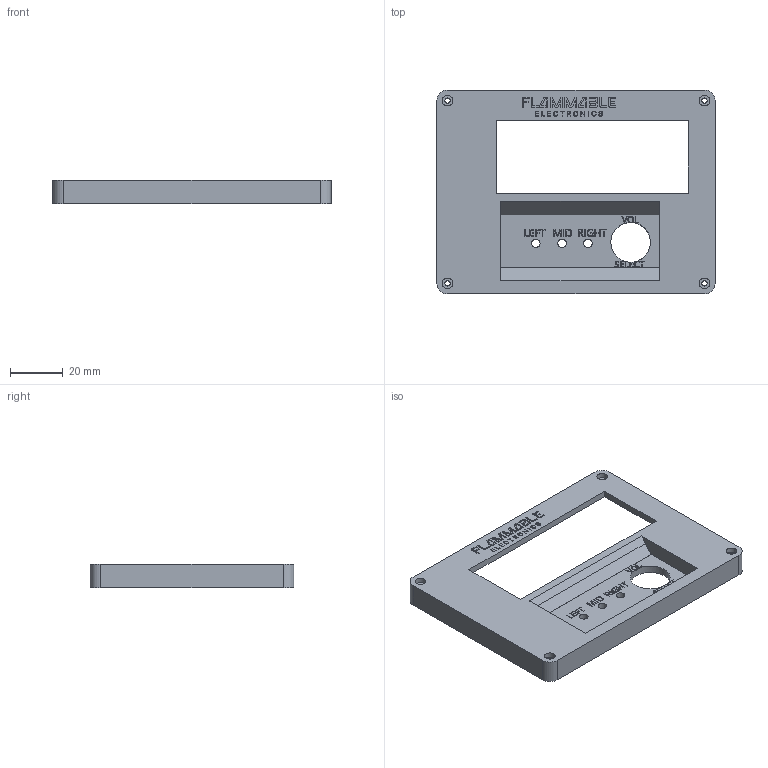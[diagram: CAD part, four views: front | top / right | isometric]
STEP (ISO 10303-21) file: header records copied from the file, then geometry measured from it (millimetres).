
FILE_DESCRIPTION(/* description */ ('STEP AP242 Edition 2','CAx-IF Rec.Pracs.---Representation and Presentation of Product Manufacturing Information (PMI)---4.0---2014-10-13','CAx-IF Rec.Pracs.---3D Tessellated Geometry---0.4---2014-09-14','2;1','CAx-IF Rec.Pracs.---User Defined Attributes---1.5---2016-08-15'),/* implementation_level */ '2;1');
FILE_NAME(/* name */ 'Assembly 1 - CaseLid',/* time_stamp */ '2026-04-02T09:55:11Z',/* author */ (''),/* organization */ (''),/* preprocessor_version */ 'ST-DEVELOPER v20',/* originating_system */ 'ONSHAPE BY PTC INC, 1.212',/* authorisation */ ' ');
FILE_SCHEMA (('AP242_MANAGED_MODEL_BASED_3D_ENGINEERING_MIM_LF { 1 0 10303 442 3 1 4 }'));
Length unit declared in the file: metre
Products named in the file (1): CaseLid
Bounding box: 105 x 77 x 9 mm (x, y, z)
Volume: 21918.8 mm3; surface area: 19856.2 mm2
Topology: 1 solids, 1 shells, 659 faces, 1830 edges, 1220 vertices
Faces by surface type: plane 418, cylinder 161, bspline 80
Full cylindrical faces by diameter (mm): 2 x4, 3.2 x3, 4 x4, 15 x1
Entity records: 21226 total; most frequent: CARTESIAN_POINT 4588, ORIENTED_EDGE 3626, DIRECTION 3130, EDGE_CURVE 1813, LINE 1320, VECTOR 1320, VERTEX_POINT 1215, AXIS2_PLACEMENT_3D 905
